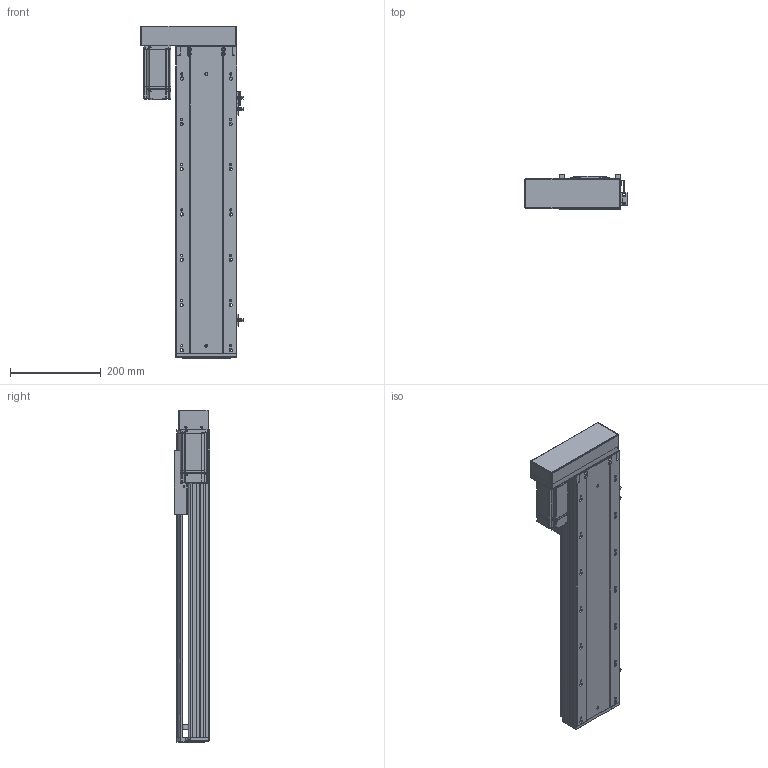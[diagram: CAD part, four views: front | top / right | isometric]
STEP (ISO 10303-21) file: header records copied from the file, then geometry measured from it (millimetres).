
FILE_DESCRIPTION (( 'STEP AP203' ), '1' );
FILE_NAME ('RY140-L1620-300-LK.SLDASM_450.step', '2021-02-22T02:46:23', ( '盈信电脑' ), ( '东莞市道滘镇水果街19号' ), 'SwSTEP 2.0', 'SolidWorks 2012', '' );
FILE_SCHEMA (( 'CONFIG_CONTROL_DESIGN' ));
Length unit declared in the file: millimetre
Products named in the file (14): RY140-L1620-300-LK.SLDASM_450; RY140酘衵殏萇儂欶; RY140蛌殏萇儂假蚾啣; 15; 侂狟400W侜督萇儂; RY140转折电机端支撑座; 滅袉蝶18-10; 覜茼ん672; RY120外置感应片(140共用）; 滅袉蝶18-24; RY140-300蛌殏倰第菁釱-LK_450; RY140綴裔啣; RY140-300蛌殏倰第奻裔啣-LK_450; RY140臏賑輸
Assembly tree (16 placements, depth 3):
  RY140-L1620-300-LK.SLDASM_450
    RY140-300蛌殏倰第菁釱-LK_450
    RY140臏賑輸
    RY140-300蛌殏倰第奻裔啣-LK_450
    RY140綴裔啣
    滅袉蝶18-24  x2
    滅袉蝶18-10
    覜茼ん672  x3
    RY120外置感应片(140共用）
    RY140转折电机端支撑座
    RY140蛌殏萇儂假蚾啣
    侂狟400W侜督萇儂
      15
    RY140酘衵殏萇儂欶
Bounding box: 225.2 x 78 x 733 mm (x, y, z)
Volume: 2684848.3 mm3; surface area: 955957.8 mm2
Topology: 15 solids, 15 shells, 2271 faces, 6284 edges, 4036 vertices
Faces by surface type: plane 1178, cylinder 822, cone 178, bspline 93
Entity records: 72131 total; most frequent: CARTESIAN_POINT 17575, ORIENTED_EDGE 11304, DIRECTION 10653, EDGE_CURVE 5652, VERTEX_POINT 3704, LINE 3629, VECTOR 3629, AXIS2_PLACEMENT_3D 3512
